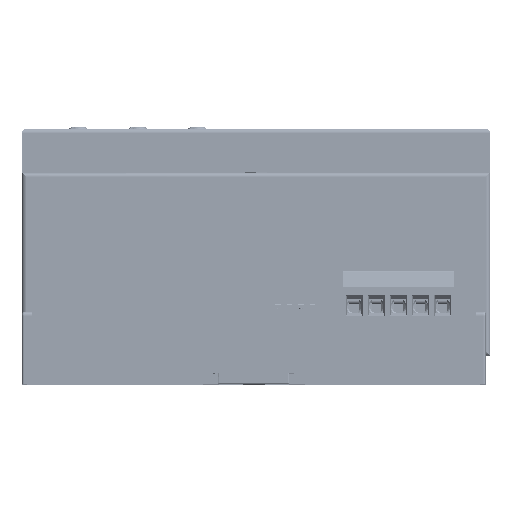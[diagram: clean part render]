
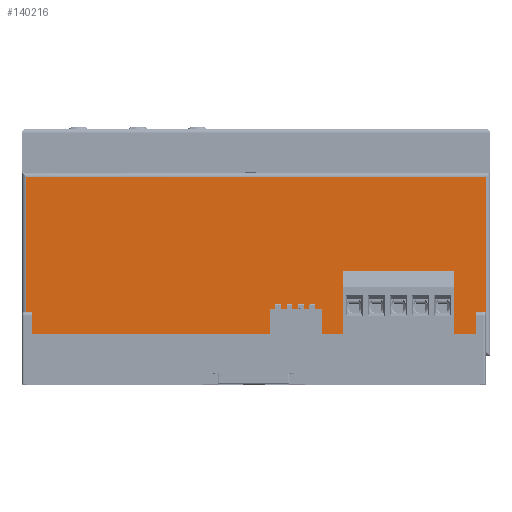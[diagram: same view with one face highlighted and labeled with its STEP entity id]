
A CAD part, top view. The second image highlights one B-rep face of the part: STEP entity #140216.
In plain terms, the highlighted planar face has unit normal (0, 0, 1).
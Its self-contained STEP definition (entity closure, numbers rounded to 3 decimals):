
#1009 = EDGE_CURVE ( 'NONE', #197952, #149714, #144604, .T. ) ;
#1139 = DIRECTION ( 'NONE',  ( 0.707, 0.707, 0. ) ) ;
#2682 = EDGE_CURVE ( 'NONE', #71058, #174311, #184139, .T. ) ;
#6349 = VECTOR ( 'NONE', #21822, 1000. ) ;
#6513 = VERTEX_POINT ( 'NONE', #33225 ) ;
#10184 = CARTESIAN_POINT ( 'NONE',  ( 1., 31.5, 0. ) ) ;
#19954 = CARTESIAN_POINT ( 'NONE',  ( 0., 30.5, 0. ) ) ;
#21822 = DIRECTION ( 'NONE',  ( -1., 0., 0. ) ) ;
#21896 = DIRECTION ( 'NONE',  ( 1., 0., 0. ) ) ;
#22997 = VECTOR ( 'NONE', #1139, 1000. ) ;
#24801 = ORIENTED_EDGE ( 'NONE', *, *, #108344, .T. ) ;
#25142 = ORIENTED_EDGE ( 'NONE', *, *, #2682, .T. ) ;
#29886 = VECTOR ( 'NONE', #21896, 1000. ) ;
#29991 = EDGE_CURVE ( 'NONE', #37855, #169706, #125158, .T. ) ;
#31394 = VECTOR ( 'NONE', #198499, 1000. ) ;
#32843 = ORIENTED_EDGE ( 'NONE', *, *, #48645, .T. ) ;
#33225 = CARTESIAN_POINT ( 'NONE',  ( 1.5, -6.5, 0. ) ) ;
#37148 = DIRECTION ( 'NONE',  ( -1., 0., 0. ) ) ;
#37855 = VERTEX_POINT ( 'NONE', #74329 ) ;
#40993 = VECTOR ( 'NONE', #146759, 1000. ) ;
#41917 = EDGE_CURVE ( 'NONE', #37855, #197952, #137237, .T. ) ;
#44846 = CARTESIAN_POINT ( 'NONE',  ( 1.5, -5., 0. ) ) ;
#48645 = EDGE_CURVE ( 'NONE', #65786, #109321, #167642, .T. ) ;
#50015 = ORIENTED_EDGE ( 'NONE', *, *, #193979, .T. ) ;
#55322 = DIRECTION ( 'NONE',  ( 0., -1., 0. ) ) ;
#56493 = VERTEX_POINT ( 'NONE', #83991 ) ;
#60526 = ORIENTED_EDGE ( 'NONE', *, *, #167086, .T. ) ;
#61918 = DIRECTION ( 'NONE',  ( -1., 0., 0. ) ) ;
#65693 = DIRECTION ( 'NONE',  ( 0., -1., 0. ) ) ;
#65718 = VECTOR ( 'NONE', #65693, 1000. ) ;
#65786 = VERTEX_POINT ( 'NONE', #204313 ) ;
#67614 = EDGE_CURVE ( 'NONE', #169706, #56493, #111130, .T. ) ;
#67726 = VECTOR ( 'NONE', #37148, 1000. ) ;
#68356 = LINE ( 'NONE', #205611, #22997 ) ;
#68783 = ORIENTED_EDGE ( 'NONE', *, *, #170676, .F. ) ;
#71058 = VERTEX_POINT ( 'NONE', #198154 ) ;
#73100 = LINE ( 'NONE', #19954, #67726 ) ;
#74329 = CARTESIAN_POINT ( 'NONE',  ( 103., -5., 0. ) ) ;
#75957 = CARTESIAN_POINT ( 'NONE',  ( 104.5, -6.5, 0. ) ) ;
#83991 = CARTESIAN_POINT ( 'NONE',  ( 104.5, -9., 0. ) ) ;
#84027 = DIRECTION ( 'NONE',  ( 0.707, -0.707, 0. ) ) ;
#84352 = DIRECTION ( 'NONE',  ( -1., 0., 0. ) ) ;
#99133 = VECTOR ( 'NONE', #61918, 1000. ) ;
#100453 = CARTESIAN_POINT ( 'NONE',  ( 103., -5., 0. ) ) ;
#101294 = EDGE_LOOP ( 'NONE', ( #24801, #32843, #68783, #60526, #121003, #196081, #126436, #122285, #196079, #25142, #50015 ) ) ;
#105805 = AXIS2_PLACEMENT_3D ( 'NONE', #169571, #135175, #84352 ) ;
#107087 = CARTESIAN_POINT ( 'NONE',  ( 3., -5., 0. ) ) ;
#108344 = EDGE_CURVE ( 'NONE', #110522, #65786, #177285, .T. ) ;
#109321 = VERTEX_POINT ( 'NONE', #216486 ) ;
#110522 = VERTEX_POINT ( 'NONE', #175154 ) ;
#111130 = LINE ( 'NONE', #168048, #65718 ) ;
#114420 = VECTOR ( 'NONE', #84027, 1000. ) ;
#121003 = ORIENTED_EDGE ( 'NONE', *, *, #1009, .F. ) ;
#122285 = ORIENTED_EDGE ( 'NONE', *, *, #67614, .T. ) ;
#123454 = VECTOR ( 'NONE', #55322, 1000. ) ;
#124056 = CARTESIAN_POINT ( 'NONE',  ( 1.5, -5., 0. ) ) ;
#124135 = CARTESIAN_POINT ( 'NONE',  ( 106., -9., 0. ) ) ;
#125158 = LINE ( 'NONE', #100453, #114420 ) ;
#126436 = ORIENTED_EDGE ( 'NONE', *, *, #29991, .T. ) ;
#135175 = DIRECTION ( 'NONE',  ( 0., 0., -1. ) ) ;
#137237 = LINE ( 'NONE', #124056, #6349 ) ;
#138662 = VECTOR ( 'NONE', #213219, 1000. ) ;
#140216 = ADVANCED_FACE ( 'NONE', ( #188011 ), #186676, .F. ) ;
#144604 = LINE ( 'NONE', #44846, #99133 ) ;
#146759 = DIRECTION ( 'NONE',  ( 0., -1., 0. ) ) ;
#149714 = VERTEX_POINT ( 'NONE', #107087 ) ;
#157576 = CARTESIAN_POINT ( 'NONE',  ( 1.5, -5., 0. ) ) ;
#160786 = LINE ( 'NONE', #124135, #29886 ) ;
#163532 = LINE ( 'NONE', #157576, #123454 ) ;
#167086 = EDGE_CURVE ( 'NONE', #6513, #149714, #68356, .T. ) ;
#167642 = LINE ( 'NONE', #215691, #31394 ) ;
#168048 = CARTESIAN_POINT ( 'NONE',  ( 104.5, -5., 0. ) ) ;
#169571 = CARTESIAN_POINT ( 'NONE',  ( 0., 31.5, 0. ) ) ;
#169706 = VERTEX_POINT ( 'NONE', #75957 ) ;
#170676 = EDGE_CURVE ( 'NONE', #6513, #109321, #163532, .T. ) ;
#173281 = CARTESIAN_POINT ( 'NONE',  ( 53., -5., 0. ) ) ;
#174311 = VERTEX_POINT ( 'NONE', #186574 ) ;
#175154 = CARTESIAN_POINT ( 'NONE',  ( 1., 30.5, 0. ) ) ;
#177285 = LINE ( 'NONE', #10184, #40993 ) ;
#184139 = LINE ( 'NONE', #196006, #138662 ) ;
#186574 = CARTESIAN_POINT ( 'NONE',  ( 105., 30.5, 0. ) ) ;
#186676 = PLANE ( 'NONE',  #105805 ) ;
#186752 = EDGE_CURVE ( 'NONE', #56493, #71058, #160786, .T. ) ;
#188011 = FACE_OUTER_BOUND ( 'NONE', #101294, .T. ) ;
#193979 = EDGE_CURVE ( 'NONE', #174311, #110522, #73100, .T. ) ;
#196006 = CARTESIAN_POINT ( 'NONE',  ( 105., 31.5, 0. ) ) ;
#196079 = ORIENTED_EDGE ( 'NONE', *, *, #186752, .T. ) ;
#196081 = ORIENTED_EDGE ( 'NONE', *, *, #41917, .F. ) ;
#197952 = VERTEX_POINT ( 'NONE', #173281 ) ;
#198154 = CARTESIAN_POINT ( 'NONE',  ( 105., -9., 0. ) ) ;
#198499 = DIRECTION ( 'NONE',  ( 1., 0., 0. ) ) ;
#204313 = CARTESIAN_POINT ( 'NONE',  ( 1., -9., 0. ) ) ;
#205611 = CARTESIAN_POINT ( 'NONE',  ( 1.5, -6.5, 0. ) ) ;
#213219 = DIRECTION ( 'NONE',  ( 0., 1., 0. ) ) ;
#215691 = CARTESIAN_POINT ( 'NONE',  ( 1.5, -9., 0. ) ) ;
#216486 = CARTESIAN_POINT ( 'NONE',  ( 1.5, -9., 0. ) ) ;
